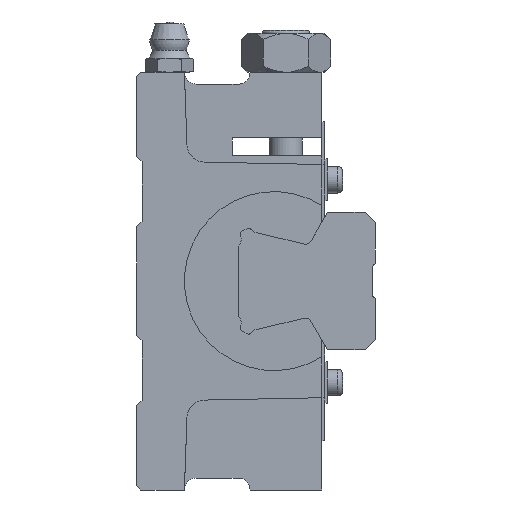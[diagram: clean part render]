
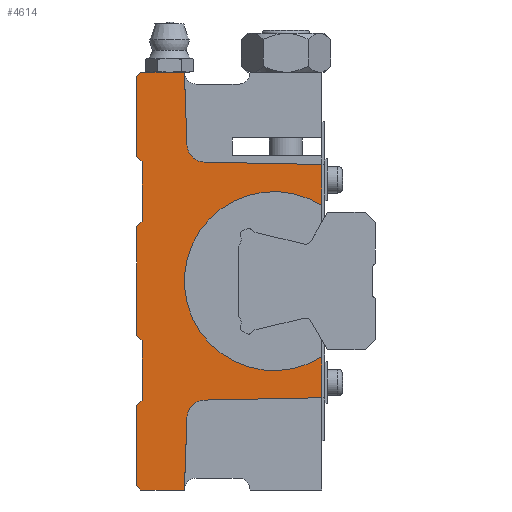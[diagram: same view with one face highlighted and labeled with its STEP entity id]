
A CAD part, left-side view. The second image highlights one B-rep face of the part: STEP entity #4614.
In plain terms, the highlighted planar face has unit normal (-1, 0, 0).
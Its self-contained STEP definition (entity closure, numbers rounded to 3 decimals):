
#287=CIRCLE('',#4992,3.);
#289=CIRCLE('',#4997,3.);
#299=CIRCLE('',#5033,15.);
#512=LINE('',#7146,#926);
#514=LINE('',#7151,#928);
#587=LINE('',#7342,#1001);
#591=LINE('',#7349,#1005);
#595=LINE('',#7369,#1009);
#601=LINE('',#7384,#1015);
#607=LINE('',#7396,#1021);
#626=LINE('',#7455,#1040);
#632=LINE('',#7467,#1046);
#635=LINE('',#7473,#1049);
#638=LINE('',#7483,#1052);
#641=LINE('',#7489,#1055);
#644=LINE('',#7495,#1058);
#647=LINE('',#7501,#1061);
#650=LINE('',#7507,#1064);
#653=LINE('',#7513,#1067);
#656=LINE('',#7519,#1070);
#659=LINE('',#7525,#1073);
#662=LINE('',#7535,#1076);
#926=VECTOR('',#5722,1000.);
#928=VECTOR('',#5726,1000.);
#1001=VECTOR('',#5893,1000.);
#1005=VECTOR('',#5899,1000.);
#1009=VECTOR('',#5911,1000.);
#1015=VECTOR('',#5921,1000.);
#1021=VECTOR('',#5931,1000.);
#1040=VECTOR('',#5972,1000.);
#1046=VECTOR('',#5982,1000.);
#1049=VECTOR('',#5987,1000.);
#1052=VECTOR('',#5996,1000.);
#1055=VECTOR('',#6001,1000.);
#1058=VECTOR('',#6006,1000.);
#1061=VECTOR('',#6011,1000.);
#1064=VECTOR('',#6016,1000.);
#1067=VECTOR('',#6021,1000.);
#1070=VECTOR('',#6026,1000.);
#1073=VECTOR('',#6031,1000.);
#1076=VECTOR('',#6040,1000.);
#1886=ORIENTED_EDGE('',*,*,#2968,.F.);
#1887=ORIENTED_EDGE('',*,*,#2776,.F.);
#1888=ORIENTED_EDGE('',*,*,#2873,.F.);
#1889=ORIENTED_EDGE('',*,*,#2870,.T.);
#1890=ORIENTED_EDGE('',*,*,#2898,.F.);
#1891=ORIENTED_EDGE('',*,*,#2891,.F.);
#1892=ORIENTED_EDGE('',*,*,#2884,.F.);
#1893=ORIENTED_EDGE('',*,*,#2965,.F.);
#1894=ORIENTED_EDGE('',*,*,#2960,.F.);
#1895=ORIENTED_EDGE('',*,*,#2957,.F.);
#1896=ORIENTED_EDGE('',*,*,#2954,.F.);
#1897=ORIENTED_EDGE('',*,*,#2951,.F.);
#1898=ORIENTED_EDGE('',*,*,#2948,.F.);
#1899=ORIENTED_EDGE('',*,*,#2945,.F.);
#1900=ORIENTED_EDGE('',*,*,#2942,.F.);
#1901=ORIENTED_EDGE('',*,*,#2939,.F.);
#1902=ORIENTED_EDGE('',*,*,#2934,.F.);
#1903=ORIENTED_EDGE('',*,*,#2931,.F.);
#1904=ORIENTED_EDGE('',*,*,#2924,.F.);
#1905=ORIENTED_EDGE('',*,*,#2882,.T.);
#1906=ORIENTED_EDGE('',*,*,#2877,.F.);
#1907=ORIENTED_EDGE('',*,*,#2778,.F.);
#2776=EDGE_CURVE('',#3373,#3369,#512,.T.);
#2778=EDGE_CURVE('',#3374,#3376,#514,.T.);
#2870=EDGE_CURVE('',#3439,#3438,#287,.T.);
#2873=EDGE_CURVE('',#3439,#3373,#587,.T.);
#2877=EDGE_CURVE('',#3376,#3442,#591,.T.);
#2882=EDGE_CURVE('',#3446,#3442,#289,.T.);
#2884=EDGE_CURVE('',#3447,#3448,#595,.T.);
#2891=EDGE_CURVE('',#3448,#3454,#601,.T.);
#2898=EDGE_CURVE('',#3454,#3438,#607,.T.);
#2924=EDGE_CURVE('',#3446,#3473,#626,.T.);
#2931=EDGE_CURVE('',#3473,#3477,#632,.T.);
#2934=EDGE_CURVE('',#3477,#3479,#635,.T.);
#2939=EDGE_CURVE('',#3479,#3483,#638,.T.);
#2942=EDGE_CURVE('',#3483,#3485,#641,.T.);
#2945=EDGE_CURVE('',#3485,#3487,#644,.T.);
#2948=EDGE_CURVE('',#3487,#3489,#647,.T.);
#2951=EDGE_CURVE('',#3489,#3491,#650,.T.);
#2954=EDGE_CURVE('',#3491,#3493,#653,.T.);
#2957=EDGE_CURVE('',#3493,#3495,#656,.T.);
#2960=EDGE_CURVE('',#3495,#3497,#659,.T.);
#2965=EDGE_CURVE('',#3497,#3447,#662,.T.);
#2968=EDGE_CURVE('',#3369,#3374,#299,.F.);
#3369=VERTEX_POINT('',#7137);
#3373=VERTEX_POINT('',#7145);
#3374=VERTEX_POINT('',#7149);
#3376=VERTEX_POINT('',#7152);
#3438=VERTEX_POINT('',#7336);
#3439=VERTEX_POINT('',#7338);
#3442=VERTEX_POINT('',#7350);
#3446=VERTEX_POINT('',#7366);
#3447=VERTEX_POINT('',#7370);
#3448=VERTEX_POINT('',#7371);
#3454=VERTEX_POINT('',#7385);
#3473=VERTEX_POINT('',#7456);
#3477=VERTEX_POINT('',#7468);
#3479=VERTEX_POINT('',#7474);
#3483=VERTEX_POINT('',#7484);
#3485=VERTEX_POINT('',#7490);
#3487=VERTEX_POINT('',#7496);
#3489=VERTEX_POINT('',#7502);
#3491=VERTEX_POINT('',#7508);
#3493=VERTEX_POINT('',#7514);
#3495=VERTEX_POINT('',#7520);
#3497=VERTEX_POINT('',#7526);
#3796=EDGE_LOOP('',(#1886,#1887,#1888,#1889,#1890,#1891,#1892,#1893,#1894,
#1895,#1896,#1897,#1898,#1899,#1900,#1901,#1902,#1903,#1904,#1905,#1906,
#1907));
#4128=FACE_BOUND('',#3796,.T.);
#4394=PLANE('',#5032);
#4614=ADVANCED_FACE('',(#4128),#4394,.F.);
#4992=AXIS2_PLACEMENT_3D('',#7337,#5887,#5888);
#4997=AXIS2_PLACEMENT_3D('',#7365,#5906,#5907);
#5032=AXIS2_PLACEMENT_3D('',#7539,#6046,#6047);
#5033=AXIS2_PLACEMENT_3D('',#7540,#6048,#6049);
#5722=DIRECTION('',(0.,0.,-1.));
#5726=DIRECTION('',(0.,0.,-1.));
#5887=DIRECTION('',(1.,0.,0.));
#5888=DIRECTION('',(0.,0.,-1.));
#5893=DIRECTION('',(0.,-1.,-0.02));
#5899=DIRECTION('',(0.,1.,-0.02));
#5906=DIRECTION('',(1.,0.,0.));
#5907=DIRECTION('',(0.,0.,-1.));
#5911=DIRECTION('',(0.,-0.707,0.707));
#5921=DIRECTION('',(0.,-1.,0.));
#5931=DIRECTION('',(0.,-0.035,-0.999));
#5972=DIRECTION('',(0.,0.035,-0.999));
#5982=DIRECTION('',(0.,1.,0.));
#5987=DIRECTION('',(0.,0.707,0.707));
#5996=DIRECTION('',(0.,0.,1.));
#6001=DIRECTION('',(0.,-0.707,0.707));
#6006=DIRECTION('',(0.,0.,1.));
#6011=DIRECTION('',(0.,0.707,0.707));
#6016=DIRECTION('',(0.,0.,1.));
#6021=DIRECTION('',(0.,-0.707,0.707));
#6026=DIRECTION('',(0.,0.,1.));
#6031=DIRECTION('',(0.,0.707,0.707));
#6040=DIRECTION('',(0.,0.,1.));
#6046=DIRECTION('',(1.,0.,0.));
#6047=DIRECTION('',(0.,0.,-1.));
#6048=DIRECTION('',(1.,0.,0.));
#6049=DIRECTION('',(0.,0.,-1.));
#7137=CARTESIAN_POINT('',(-33.5,3.5,12.689));
#7145=CARTESIAN_POINT('',(-33.5,3.5,19.54));
#7146=CARTESIAN_POINT('',(-33.5,3.5,19.54));
#7149=CARTESIAN_POINT('',(-33.5,3.5,-12.689));
#7151=CARTESIAN_POINT('',(-33.5,3.5,19.54));
#7152=CARTESIAN_POINT('',(-33.5,3.5,-19.54));
#7336=CARTESIAN_POINT('',(-33.5,26.068,22.826));
#7337=CARTESIAN_POINT('',(-33.5,23.07,22.932));
#7338=CARTESIAN_POINT('',(-33.5,23.13,19.933));
#7342=CARTESIAN_POINT('',(-33.5,23.13,19.933));
#7349=CARTESIAN_POINT('',(-33.5,3.5,-19.54));
#7350=CARTESIAN_POINT('',(-33.5,23.13,-19.933));
#7365=CARTESIAN_POINT('',(-33.5,23.07,-22.932));
#7366=CARTESIAN_POINT('',(-33.5,26.068,-22.826));
#7369=CARTESIAN_POINT('',(-33.5,34.5,34.3));
#7370=CARTESIAN_POINT('',(-33.5,34.5,34.3));
#7371=CARTESIAN_POINT('',(-33.5,33.8,35.));
#7384=CARTESIAN_POINT('',(-33.5,33.8,35.));
#7385=CARTESIAN_POINT('',(-33.5,26.5,35.));
#7396=CARTESIAN_POINT('',(-33.5,26.5,35.));
#7455=CARTESIAN_POINT('',(-33.5,26.068,-22.826));
#7456=CARTESIAN_POINT('',(-33.5,26.5,-35.));
#7467=CARTESIAN_POINT('',(-33.5,26.5,-35.));
#7468=CARTESIAN_POINT('',(-33.5,33.8,-35.));
#7473=CARTESIAN_POINT('',(-33.5,33.8,-35.));
#7474=CARTESIAN_POINT('',(-33.5,34.5,-34.3));
#7483=CARTESIAN_POINT('',(-33.5,34.5,-34.3));
#7484=CARTESIAN_POINT('',(-33.5,34.5,-20.9));
#7489=CARTESIAN_POINT('',(-33.5,34.5,-20.9));
#7490=CARTESIAN_POINT('',(-33.5,33.6,-20.));
#7495=CARTESIAN_POINT('',(-33.5,33.6,-20.));
#7496=CARTESIAN_POINT('',(-33.5,33.6,-10.));
#7501=CARTESIAN_POINT('',(-33.5,33.6,-10.));
#7502=CARTESIAN_POINT('',(-33.5,34.5,-9.1));
#7507=CARTESIAN_POINT('',(-33.5,34.5,-9.1));
#7508=CARTESIAN_POINT('',(-33.5,34.5,9.1));
#7513=CARTESIAN_POINT('',(-33.5,34.5,9.1));
#7514=CARTESIAN_POINT('',(-33.5,33.6,10.));
#7519=CARTESIAN_POINT('',(-33.5,33.6,10.));
#7520=CARTESIAN_POINT('',(-33.5,33.6,20.));
#7525=CARTESIAN_POINT('',(-33.5,33.6,20.));
#7526=CARTESIAN_POINT('',(-33.5,34.5,20.9));
#7535=CARTESIAN_POINT('',(-33.5,34.5,20.9));
#7539=CARTESIAN_POINT('',(-33.5,23.07,22.932));
#7540=CARTESIAN_POINT('',(-33.5,11.5,0.));
